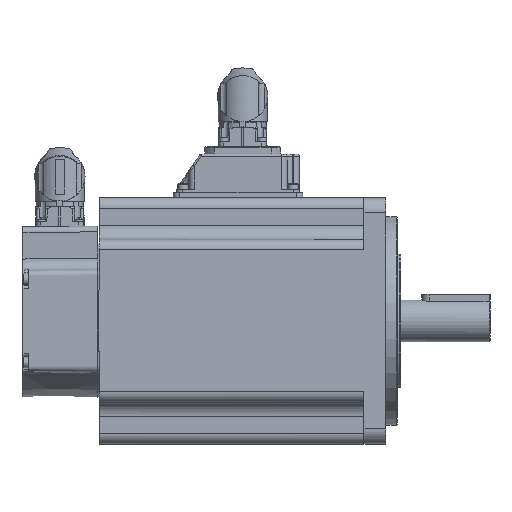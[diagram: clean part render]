
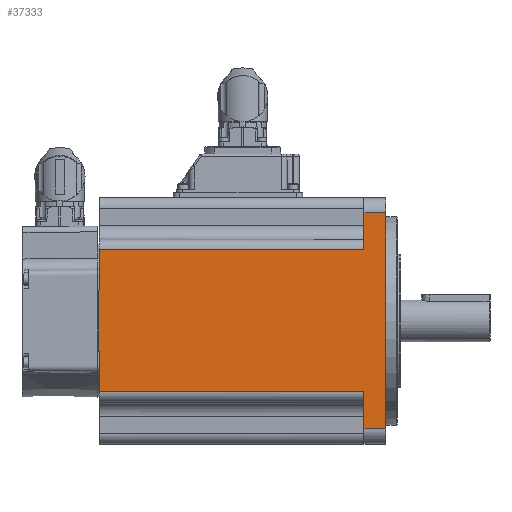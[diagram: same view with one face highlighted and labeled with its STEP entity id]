
A CAD part, left-side view. The second image highlights one B-rep face of the part: STEP entity #37333.
In plain terms, the highlighted planar face has unit normal (-1, 0, 0).
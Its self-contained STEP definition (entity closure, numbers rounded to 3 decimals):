
#37333 = ADVANCED_FACE( '', ( #58853 ), #58854, .T. );
#58853 = FACE_OUTER_BOUND( '', #68154, .T. );
#58854 = PLANE( '', #68155 );
#63344 = EDGE_CURVE( '', #75296, #75297, #75298, .T. );
#64224 = EDGE_CURVE( '', #76595, #75297, #76596, .F. );
#65821 = EDGE_CURVE( '', #76595, #78781, #78782, .T. );
#66092 = EDGE_CURVE( '', #79150, #79148, #79151, .T. );
#66741 = EDGE_CURVE( '', #79939, #78781, #79940, .T. );
#67149 = EDGE_CURVE( '', #80424, #79150, #80425, .T. );
#67275 = EDGE_CURVE( '', #79939, #80578, #80579, .T. );
#68154 = EDGE_LOOP( '', ( #81645, #81646, #81647, #81648, #81649, #81650, #81651, #81652, #81653 ) );
#68155 = AXIS2_PLACEMENT_3D( '', #81654, #81655, #81656 );
#75296 = VERTEX_POINT( '', #98398 );
#75297 = VERTEX_POINT( '', #98399 );
#75298 = LINE( '', #98400, #98401 );
#76595 = VERTEX_POINT( '', #101714 );
#76596 = LINE( '', #101715, #101716 );
#78781 = VERTEX_POINT( '', #106517 );
#78782 = LINE( '', #106518, #106519 );
#79148 = VERTEX_POINT( '', #107327 );
#79150 = VERTEX_POINT( '', #107329 );
#79151 = LINE( '', #107330, #107331 );
#79939 = VERTEX_POINT( '', #108952 );
#79940 = LINE( '', #108953, #108954 );
#80424 = VERTEX_POINT( '', #109844 );
#80425 = LINE( '', #109845, #109846 );
#80578 = VERTEX_POINT( '', #110058 );
#80579 = LINE( '', #110059, #110060 );
#81645 = ORIENTED_EDGE( '', *, *, #111676, .T. );
#81646 = ORIENTED_EDGE( '', *, *, #67275, .F. );
#81647 = ORIENTED_EDGE( '', *, *, #66741, .T. );
#81648 = ORIENTED_EDGE( '', *, *, #65821, .F. );
#81649 = ORIENTED_EDGE( '', *, *, #64224, .T. );
#81650 = ORIENTED_EDGE( '', *, *, #63344, .F. );
#81651 = ORIENTED_EDGE( '', *, *, #111677, .T. );
#81652 = ORIENTED_EDGE( '', *, *, #67149, .T. );
#81653 = ORIENTED_EDGE( '', *, *, #66092, .T. );
#81654 = CARTESIAN_POINT( '', ( -65., 70.8, -65. ) );
#81655 = DIRECTION( '', ( -1., 0., 0. ) );
#81656 = DIRECTION( '', ( 0., 0., 1. ) );
#98398 = CARTESIAN_POINT( '', ( -65., 2.6, 37.5 ) );
#98399 = CARTESIAN_POINT( '', ( -65., 2.6, 57. ) );
#98400 = CARTESIAN_POINT( '', ( -65., 2.6, 65. ) );
#98401 = VECTOR( '', #117031, 1000. );
#101714 = CARTESIAN_POINT( '', ( -65., -8.9, 57. ) );
#101715 = CARTESIAN_POINT( '', ( -65., 299.064, 57. ) );
#101716 = VECTOR( '', #118053, 1000. );
#106517 = CARTESIAN_POINT( '', ( -65., -8.9, -57. ) );
#106518 = CARTESIAN_POINT( '', ( -65., -8.9, 65. ) );
#106519 = VECTOR( '', #119831, 1000. );
#107327 = CARTESIAN_POINT( '', ( -65., 142.273, -37.5 ) );
#107329 = CARTESIAN_POINT( '', ( -65., 142.6, 0. ) );
#107330 = CARTESIAN_POINT( '', ( -65., 142.027, -65.622 ) );
#107331 = VECTOR( '', #120171, 1000. );
#108952 = CARTESIAN_POINT( '', ( -65., 2.6, -57. ) );
#108953 = CARTESIAN_POINT( '', ( -65., 299.064, -57. ) );
#108954 = VECTOR( '', #120778, 1000. );
#109844 = CARTESIAN_POINT( '', ( -65., 142.273, 37.5 ) );
#109845 = CARTESIAN_POINT( '', ( -65., 143.162, -64.369 ) );
#109846 = VECTOR( '', #121162, 1000. );
#110058 = CARTESIAN_POINT( '', ( -65., 2.6, -37.5 ) );
#110059 = CARTESIAN_POINT( '', ( -65., 2.6, 65. ) );
#110060 = VECTOR( '', #121281, 1000. );
#111676 = EDGE_CURVE( '', #79148, #80578, #121814, .F. );
#111677 = EDGE_CURVE( '', #75296, #80424, #121815, .F. );
#117031 = DIRECTION( '', ( 0., 0., 1. ) );
#118053 = DIRECTION( '', ( 0., -1., 0. ) );
#119831 = DIRECTION( '', ( 0., 0., -1. ) );
#120171 = DIRECTION( '', ( 0., -0.009, -1. ) );
#120778 = DIRECTION( '', ( 0., -1., 0. ) );
#121162 = DIRECTION( '', ( 0., 0.009, -1. ) );
#121281 = DIRECTION( '', ( 0., 0., 1. ) );
#121814 = LINE( '', #123007, #123008 );
#121815 = LINE( '', #123009, #123010 );
#123007 = CARTESIAN_POINT( '', ( -65., 70.8, -37.5 ) );
#123008 = VECTOR( '', #124817, 1000. );
#123009 = CARTESIAN_POINT( '', ( -65., 150.8, 37.5 ) );
#123010 = VECTOR( '', #124818, 1000. );
#124817 = DIRECTION( '', ( 0., 1., 0. ) );
#124818 = DIRECTION( '', ( 0., -1., 0. ) );
